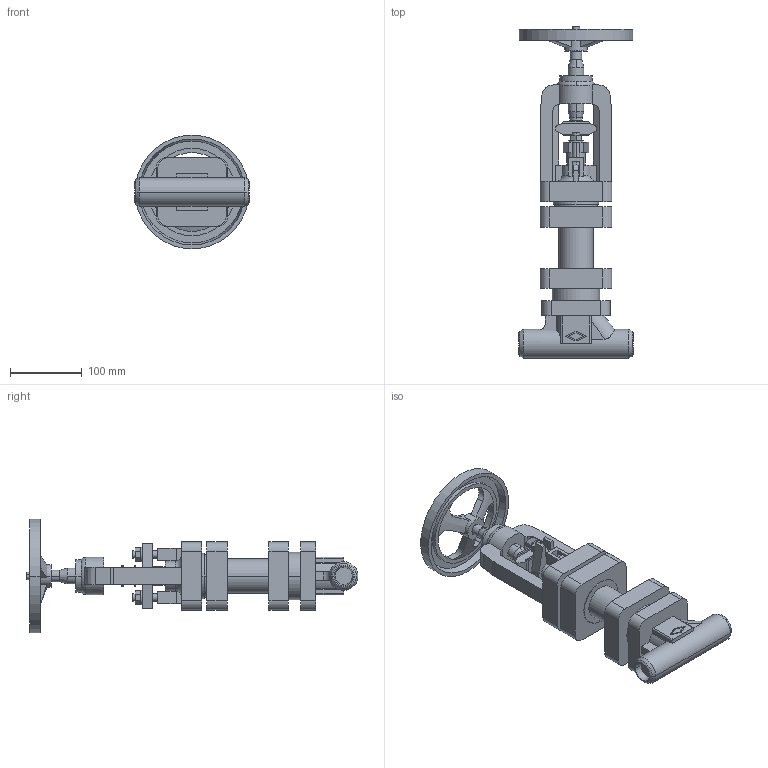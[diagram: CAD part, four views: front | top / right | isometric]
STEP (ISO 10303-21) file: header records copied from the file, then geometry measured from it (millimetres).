
FILE_DESCRIPTION(('Creo Elements/Direct Modeling STEP Export'),'2;1');
FILE_NAME('Figur146-SE_DN25_PN63.stp','2018-01-22T 7:54:31',(''),(''),'Creo Elements/Direct Modeling STEP processor for AP214 (Solid Model)','Creo Elements/Direct Modeling 18.1C 24-Feb-2013 (C) Parametric Technology GmbH','');
FILE_SCHEMA(('AUTOMOTIVE_DESIGN { 1 0 10303 214 1 1 1 1 }'));
Length unit declared in the file: millimetre
Products named in the file (1): 1
Bounding box: 160 x 463.55 x 158.78 mm (x, y, z)
Volume: 1946367.2 mm3; surface area: 243753.7 mm2
Topology: 1 solids, 1 shells, 363 faces, 974 edges, 640 vertices
Faces by surface type: plane 214, cylinder 109, cone 26, extrusion 8, torus 6
Entity records: 11673 total; most frequent: CARTESIAN_POINT 2970, ORIENTED_EDGE 1948, DIRECTION 1635, EDGE_CURVE 974, VERTEX_POINT 640, VECTOR 613, LINE 607, AXIS2_PLACEMENT_3D 511
